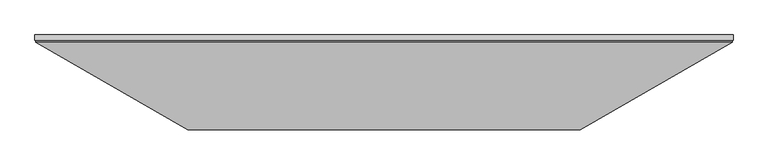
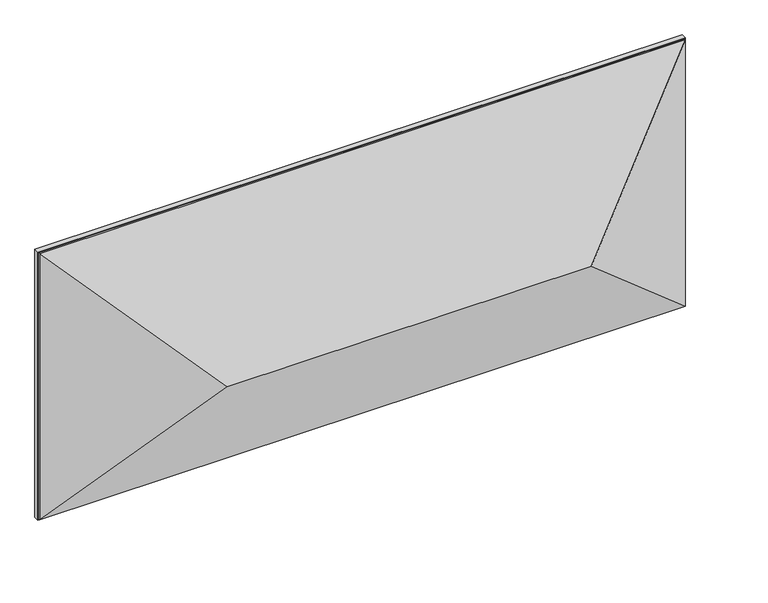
"""IFC4 building model written with IfcOpenShell, lengths in millimetres: proxy geometry, IMPRESS^TABLE 1_42x96 RECT-PARTS SOLID."""

from ifc_helpers import new_model, si_unit, frame, origin, place, context, project, spatial, polyline, outline, extrude, faceted_brep, source, transform, mapped, element, save


def generic_models_3f900403(model_context):
    return source(origin(), model_context, "Body", "SolidModel", [
        extrude(outline(polyline([(3.175, 38.1), (-2435.225, 38.1), (-2435.225, 57.15), (3.175, 57.15), (3.175, 38.1)])), frame((0.0, 0.0, -1063.625), z_axis=(0.0, 0.0, 1.0), x_axis=(1.0, 0.0, 0.0)), (0.0, 0.0, 1.0), 1066.8),
        faceted_brep([(-2432.05, 31.75, 0.0), (-1901.825, -274.3755465, -530.225), (-530.225, -274.3755465, -530.225), (0.0, 31.75, 0.0), (0.0, 31.75, -1060.45), (-2432.05, 31.75, -1060.45), (-2432.05, 38.1, 0.0), (-2432.05, 38.1, -1060.45), (0.0, 38.1, 0.0), (0.0, 38.1, -1060.45)], [[[0, 1, 2, 3]], [[3, 2, 4]], [[1, 5, 4, 2]], [[1, 0, 5]], [[5, 0, 6, 7]], [[0, 3, 8, 6]], [[3, 4, 9, 8]], [[4, 5, 7, 9]], [[9, 7, 6, 8]]]),
    ])


if __name__ == "__main__":
    model = new_model("IFC4")
    model_context = context("Model", 3, world=origin())
    ifc_project = project(units=[si_unit("LENGTHUNIT", "METRE", prefix="MILLI")], contexts=[model_context])
    site = spatial("IfcSite", under=ifc_project)
    building = spatial("IfcBuilding", under=site)
    placement = place(None, origin())
    generic_models_shape = generic_models_3f900403(model_context)
    element("IfcBuildingElementProxy", 1, Name="IMPRESS^TABLE 1_42x96 RECT-PARTS SOLID", ObjectType="IMPRESS^TABLE 1_42x96 RECT-PARTS SOLID", at=placement, inside=building, context=model_context, shape_type="MappedRepresentation", body=[
        mapped(generic_models_shape, transform((0.0, 0.0, 0.0), x_axis=(1.0, 0.0, 0.0), y_axis=(0.0, 1.0, 0.0), z_axis=(0.0, 0.0, 1.0))),
    ])
    save(model, "model.ifc")
